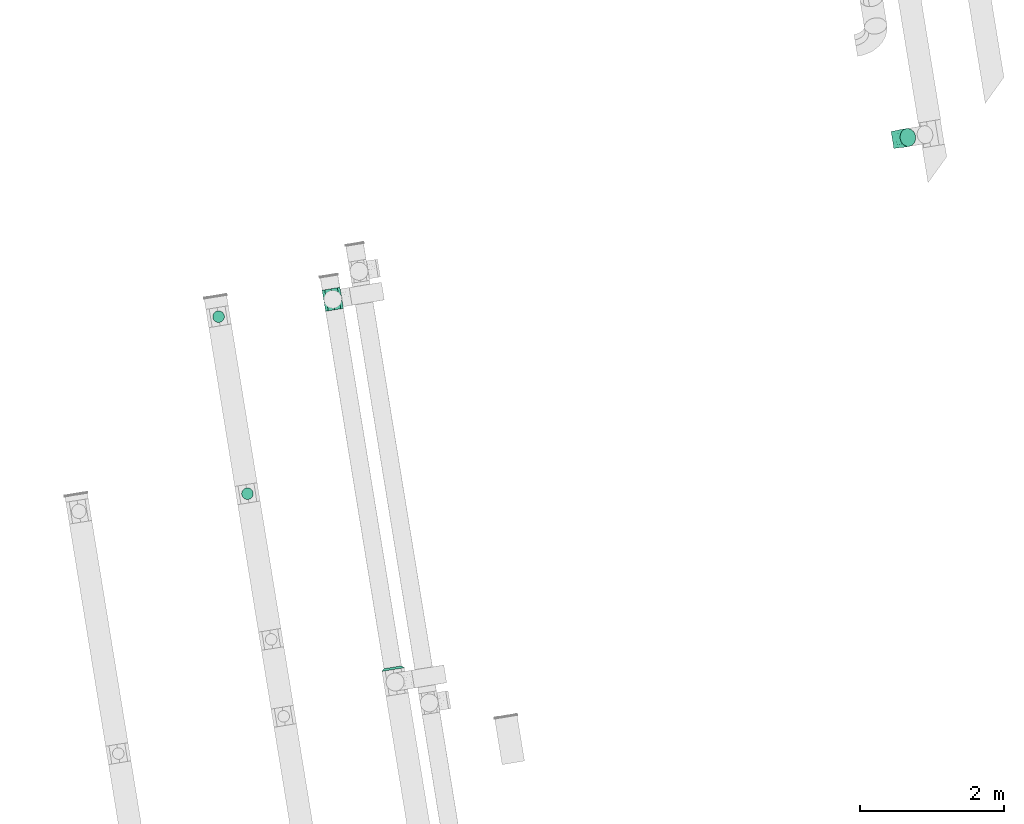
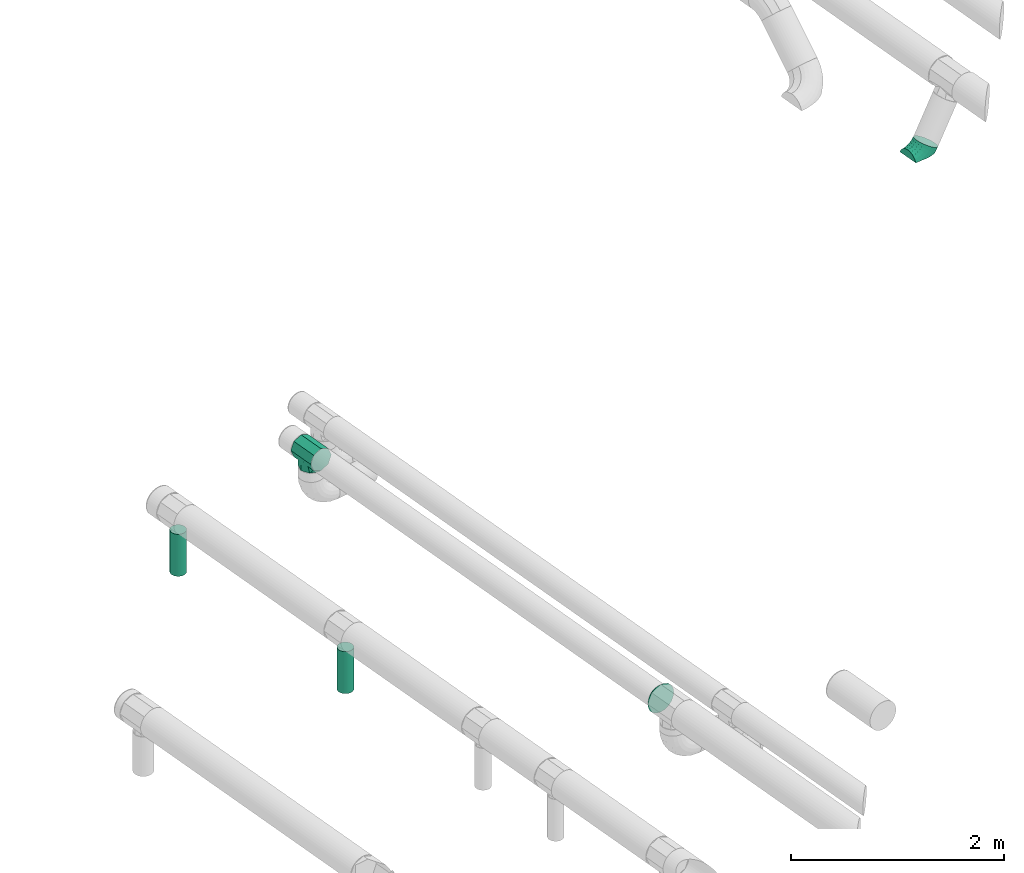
# One storey, part 14 of 15: 3 flow fittings, 2 flow segments.
"""IFC2X3 building model written with IfcOpenShell, lengths in millimetres."""

from ifc_helpers import new_model, entity, si_unit, converted_unit, derived_unit, direction, frame, origin, origin_with_axes, place, context, subcontext, project, spatial, faceted_brep, source, transform, mapped, material, type_object, element, save


model = new_model("IFC2X3")

# Units and contexts
model_context = context("Model", 3, precision=0.01, world=origin(), true_north=direction((6.12323399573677e-17, 1.0)))
plan_context = context("Plan", 3, precision=1e-05, world=origin_with_axes())
body_context = subcontext(model_context, "Body", "Model", "MODEL_VIEW")
ifc_project = project(units=[converted_unit("PLANEANGLEUNIT", "DEGREE", entity("IfcPositiveLengthMeasure", 0.0174532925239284), si_unit("PLANEANGLEUNIT", "RADIAN"), dimensions=[0, 0, 0, 0, 0, 0, 0]), si_unit("AREAUNIT", "SQUARE_METRE"), si_unit("LENGTHUNIT", "METRE", prefix="MILLI"), si_unit("MASSUNIT", "GRAM", prefix="KILO"), si_unit("POWERUNIT", "WATT"), si_unit("PRESSUREUNIT", "PASCAL", prefix="KILO"), si_unit("FORCEUNIT", "NEWTON", prefix="KILO"), si_unit("ELECTRICVOLTAGEUNIT", "VOLT"), si_unit("ELECTRICCURRENTUNIT", "AMPERE"), si_unit("THERMODYNAMICTEMPERATUREUNIT", "DEGREE_CELSIUS"), si_unit("TIMEUNIT", "SECOND"), si_unit("VOLUMEUNIT", "CUBIC_METRE"), derived_unit("LINEARVELOCITYUNIT", [(si_unit("LENGTHUNIT", "METRE"), 1), (si_unit("TIMEUNIT", "SECOND"), -1)]), derived_unit("VOLUMETRICFLOWRATEUNIT", [(si_unit("VOLUMEUNIT", "CUBIC_METRE"), 1), (si_unit("TIMEUNIT", "SECOND"), -1)]), derived_unit("THERMALTRANSMITTANCEUNIT", [(si_unit("POWERUNIT", "WATT"), 1), (si_unit("THERMODYNAMICTEMPERATUREUNIT", "KELVIN"), -1), (si_unit("AREAUNIT", "SQUARE_METRE"), -1)]), derived_unit("SOUNDPRESSUREUNIT", [(si_unit("PRESSUREUNIT", "PASCAL"), 1)])], contexts=[model_context, plan_context])

# Site, building, storey
site_placement = place(None, frame((5.09380697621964e-08, 5.80416781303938e-08, 0.0), z_axis=(0.0, 0.0, 1.0), x_axis=(-0.160806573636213, 0.986985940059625, 0.0)))
site = spatial("IfcSite", under=ifc_project, at=site_placement, Name="Default", CompositionType="ELEMENT")
building_placement = place(site_placement, frame((0.0, 0.0, 0.0), z_axis=(0.0, 0.0, 1.0), x_axis=(1.0, -2.77555756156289e-17, 0.0)))
building = spatial("IfcBuilding", under=site, at=building_placement, Name="Bygning (endres i Project Information)", CompositionType="ELEMENT")
storey_placement = place(building_placement, frame((0.0, 0.0, 51360.0000000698), z_axis=(0.0, 0.0, 1.0), x_axis=(1.0, -2.77555756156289e-17, 0.0)))
storey = spatial("IfcBuildingStorey", under=building, at=storey_placement, Name="H01-Nivå D+0,36", CompositionType="ELEMENT", Elevation=51360.0000000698)

# Flow fittings
ifc_material_1 = material(Name="Material_Duct")
duct_fitting_type_1 = type_object("IfcDuctFittingType", Name="magicirc_reduction_NOR:magicirc_reduction_NOR", PredefinedType="NOTDEFINED", material=ifc_material_1)
shared_shape_1 = source(origin(), body_context, "Body", "Brep", [
    faceted_brep([(32.5000000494, 38.6271243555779, 118.882064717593), (32.5000000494, 0.0, 125.000000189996), (32.5000000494, -38.6271243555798, 118.882064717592), (32.5000000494, -73.4731566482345, 101.127124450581), (32.5000000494, -101.127124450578, 73.4731566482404), (32.5000000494, -118.882064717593, 38.6271243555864), (32.5000000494, -125.000000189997, 0.0), (32.5000000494, -118.882064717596, -38.6271243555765), (32.5000000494, -101.127124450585, -73.473156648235), (32.5000000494, -73.4731566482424, -101.127124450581), (32.5000000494, -38.6271243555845, -118.882064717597), (32.5000000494, 0.0, -125.000000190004), (32.5000000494, 38.6271243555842, -118.882064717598), (32.5000000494, 73.4731566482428, -101.127124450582), (32.5000000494, 101.127124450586, -73.4731566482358), (32.5000000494, 118.882064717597, -38.6271243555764), (32.5000000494, 125.000000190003, 0.0), (32.5000000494, 118.882064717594, 38.6271243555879), (32.5000000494, 101.127124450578, 73.4731566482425), (32.5000000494, 73.4731566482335, 101.127124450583), (0.0, 0.0, 157.500000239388), (0.0, 40.7639996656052, 152.13331787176), (0.0, 78.7500001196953, 136.399001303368), (0.0, 111.369318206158, 111.369318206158), (0.0, 136.399001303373, 78.7500001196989), (0.0, 152.133317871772, 40.763999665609), (0.0, 157.5000002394, 0.0), (0.0, 152.133317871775, -40.7639996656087), (0.0, 136.399001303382, -78.7500001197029), (0.0, 111.36931820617, -111.369318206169), (0.0, 78.7500001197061, -136.399001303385), (0.0, 40.7639996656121, -152.133317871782), (0.0, 0.0, -157.500000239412), (0.0, -40.7639996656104, -152.133317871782), (0.0, -78.7500001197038, -136.399001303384), (0.0, -111.369318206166, -111.369318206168), (0.0, -136.399001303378, -78.7500001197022), (0.0, -152.13331787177, -40.763999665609), (0.0, -157.5000002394, 0.0), (0.0, -152.133317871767, 40.7639996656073), (0.0, -136.39900130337, 78.7500001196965), (0.0, -111.369318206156, 111.369318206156), (0.0, -78.7500001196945, 136.399001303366), (0.0, -40.7639996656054, 152.133317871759)], [[[0, 1, 2, 3, 4, 5, 6, 7, 8, 9, 10, 11, 12, 13, 14, 15, 16, 17, 18, 19]], [[20, 21, 22, 23, 24, 25, 26, 27, 28, 29, 30, 31, 32, 33, 34, 35, 36, 37, 38, 39, 40, 41, 42, 43]], [[8, 7, 36]], [[7, 6, 37]], [[9, 34, 10]], [[35, 9, 8]], [[10, 33, 11]], [[38, 37, 6]], [[36, 7, 37]], [[9, 35, 34]], [[10, 34, 33]], [[35, 8, 36]], [[33, 32, 11]], [[31, 11, 32]], [[12, 11, 31]], [[12, 30, 13]], [[15, 14, 28]], [[14, 13, 29]], [[16, 15, 27]], [[31, 30, 12]], [[30, 29, 13]], [[14, 29, 28]], [[28, 27, 15]], [[27, 26, 16]], [[18, 17, 24]], [[17, 16, 25]], [[19, 22, 0]], [[23, 19, 18]], [[0, 21, 1]], [[26, 25, 16]], [[24, 17, 25]], [[19, 23, 22]], [[0, 22, 21]], [[23, 18, 24]], [[21, 20, 1]], [[43, 1, 20]], [[2, 1, 43]], [[2, 42, 3]], [[5, 4, 40]], [[4, 3, 41]], [[6, 5, 39]], [[43, 42, 2]], [[42, 41, 3]], [[4, 41, 40]], [[40, 39, 5]], [[39, 38, 6]]]),
])
flow_fitting_1_placement = place(storey_placement, frame((1000268.18735498, -347124.100724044, 3804.29489743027), z_axis=(0.0, 0.0, 1.0), x_axis=(1.0, -2.77555756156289e-17, 0.0)))
element("IfcFlowFitting", 1, at=flow_fitting_1_placement, inside=storey, type_object=duct_fitting_type_1, material=ifc_material_1, Name="magicirc_reduction_NOR:magicirc_reduction_NOR", ObjectType="magicirc_reduction_NOR:magicirc_reduction_NOR", context=body_context, shape_type="MappedRepresentation", body=[
    mapped(shared_shape_1, transform((0.0, 0.0, 0.0), scale=1.0)),
])
ifc_material_2 = material(Name="DF_Material1")
duct_fitting_type_2 = type_object("IfcDuctFittingType", Name="Lindab TCPU:TCPU", PredefinedType="NOTDEFINED", material=ifc_material_2)
shared_shape_2 = source(origin(), body_context, "Body", "Brep", [
    faceted_brep([(148.0, -106.694173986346, 44.1941738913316), (148.0, -88.3883477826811, 88.388347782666), (110.210392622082, -110.210392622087, 58.9802458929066), (125.000000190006, -125.000000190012, 0.0), (148.0, -125.000000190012, 0.0), (-148.0, -125.000000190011, 0.0), (-125.000000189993, -125.000000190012, 0.0), (-148.0, -106.694173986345, 44.1941738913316), (75.8331549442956, -75.8331549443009, 99.3696767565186), (148.0, 0.0, 125.000000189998), (97.5961174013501, 0.0, 125.000000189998), (33.5365138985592, -33.5365138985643, 120.417200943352), (48.7980587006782, 0.0, 125.000000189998), (0.0, 0.0, 125.000000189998), (85.4880923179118, -85.488092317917, -91.1964150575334), (44.491984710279, -44.4919847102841, -116.813797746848), (97.5961133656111, 0.0, -125.000000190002), (148.0, -88.3883477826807, -88.3883477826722), (148.0, 0.0, -125.000000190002), (0.0, 0.0, -125.000000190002), (148.0, -106.694173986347, -44.1941738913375), (-148.0, -106.694173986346, -44.1941738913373), (116.363856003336, -116.363856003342, -45.6558108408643), (125.000000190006, -150.0, 0.0), (106.694173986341, -150.0, 44.1941738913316), (88.3883477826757, -150.0, 88.388347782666), (0.0, -150.0, 125.000000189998), (-88.3883477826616, -150.0, 88.3883477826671), (-106.694173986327, -150.0, 44.1941738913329), (-125.000000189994, -150.0, 0.0), (-106.694173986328, -150.0, -44.1941738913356), (-88.3883477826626, -150.0, -88.3883477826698), (0.0, -150.0, -125.000000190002), (88.3883477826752, -150.0, -88.3883477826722), (106.694173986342, -150.0, -44.1941738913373), (-44.4919847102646, -44.4919847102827, 116.813797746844), (0.0, -97.5961025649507, 125.000000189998), (0.0, -48.7980632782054, 125.000000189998), (-85.4880923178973, -85.488092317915, 91.1964150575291), (-116.363856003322, -116.36385600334, 45.6558108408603), (-110.210392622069, -110.210392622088, -58.9802458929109), (-33.5365138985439, -33.5365138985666, -120.417200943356), (0.0, -48.7980613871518, -125.000000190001), (0.0, -97.5961227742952, -125.000000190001), (-75.8331549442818, -75.8331549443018, -99.3696767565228), (-148.0, -88.3883477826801, 88.388347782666), (-148.0, 0.0, 125.000000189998), (-148.0, 88.3883477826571, 88.3883477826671), (-148.0, 125.000000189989, 0.0), (-148.0, 88.3883477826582, -88.3883477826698), (-148.0, 0.0, -125.000000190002), (-148.0, -88.3883477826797, -88.3883477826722), (148.0, 88.3883477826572, -88.3883477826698), (148.0, 125.000000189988, 0.0), (148.0, 88.3883477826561, 88.3883477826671), (-97.5961254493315, 0.0, 125.000000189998), (-48.7980562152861, 0.0, -125.000000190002), (-97.5961175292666, 0.0, -125.000000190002)], [[[0, 1, 2]], [[3, 0, 2]], [[3, 4, 0]], [[5, 6, 7]], [[1, 8, 2]], [[9, 10, 8]], [[9, 8, 1]], [[11, 10, 12, 13]], [[8, 10, 11]], [[14, 15, 16]], [[16, 17, 14]], [[18, 17, 16]], [[15, 19, 16]], [[4, 3, 20]], [[6, 5, 21]], [[22, 17, 20]], [[22, 20, 3]], [[17, 22, 14]], [[23, 24, 25, 26, 27, 28, 29, 30, 31, 32, 33, 34]], [[35, 36, 37, 13]], [[38, 36, 35]], [[36, 27, 26]], [[36, 38, 27]], [[6, 29, 28]], [[6, 28, 39]], [[28, 27, 39]], [[39, 27, 38]], [[40, 30, 6]], [[40, 31, 30]], [[41, 19, 42, 43]], [[29, 6, 30]], [[40, 44, 31]], [[43, 32, 44]], [[44, 32, 31]], [[44, 41, 43]], [[15, 43, 42, 19]], [[14, 43, 15]], [[43, 33, 32]], [[43, 14, 33]], [[3, 23, 34]], [[3, 34, 22]], [[34, 33, 22]], [[22, 33, 14]], [[2, 24, 3]], [[2, 25, 24]], [[23, 3, 24]], [[2, 8, 25]], [[36, 26, 8]], [[11, 13, 37, 36]], [[8, 26, 25]], [[8, 11, 36]], [[5, 7, 45, 46, 47, 48, 49, 50, 51, 21]], [[18, 52, 53, 54, 9, 1, 0, 4, 20, 17]], [[47, 46, 55, 13, 12, 10, 9, 54]], [[54, 53, 48, 47]], [[53, 52, 49, 48]], [[52, 18, 16, 19, 56, 57, 50, 49]], [[19, 41, 57, 56]], [[44, 57, 41]], [[50, 44, 51]], [[50, 57, 44]], [[6, 21, 40]], [[21, 51, 40]], [[40, 51, 44]], [[39, 7, 6]], [[39, 45, 7]], [[39, 38, 45]], [[46, 45, 55]], [[35, 13, 55]], [[55, 45, 38]], [[38, 35, 55]]]),
])
flow_fitting_2_placement = place(storey_placement, frame((1005465.68748115, -347124.100724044, 3804.2948974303), z_axis=(-2.77555756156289e-17, -1.0, 0.0), x_axis=(1.0, -2.77555756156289e-17, 0.0)))
element("IfcFlowFitting", 2, at=flow_fitting_2_placement, inside=storey, type_object=duct_fitting_type_2, material=ifc_material_2, Name="Lindab TCPU:TCPU", ObjectType="Lindab TCPU:TCPU", context=body_context, shape_type="MappedRepresentation", body=[
    mapped(shared_shape_2, transform((0.0, 0.0, 0.0), scale=1.0)),
])
ifc_material_3 = material(Name="3601.001 Tilluft")
duct_fitting_type_3 = type_object("IfcDuctFittingType", Name="magicirc_elbow_full_radius_NOR:magicirc_elbow_full_radius_NOR", PredefinedType="NOTDEFINED", material=ifc_material_3)
flow_fitting_3_placement = place(storey_placement, frame((1006397.35159129, -355276.553087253, 3101.48989533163), z_axis=(1.0, -6.93889391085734e-18, 1.20185167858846e-17), x_axis=(1.38777878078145e-17, 0.500000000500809, -0.866025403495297)))
element("IfcFlowFitting", 3, at=flow_fitting_3_placement, inside=storey, type_object=duct_fitting_type_3, Name="magicirc_elbow_full_radius_NOR:magicirc_elbow_full_radius_NOR", ObjectType="magicirc_elbow_full_radius_NOR:magicirc_elbow_full_radius_NOR", context=body_context, shape_type="Brep", body=[
    faceted_brep([(-111.086490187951, -115.387235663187, 38.6271243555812), (-114.84686903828, -121.900402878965, 0.0), (-144.337567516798, -125.00000019, 0.0), (-144.337567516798, -118.882064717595, 38.6271243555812), (16.3412723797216, 105.324123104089, -119.648935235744), (38.8180549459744, 144.255052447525, -118.900598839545), (38.7167127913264, 144.313562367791, -118.882064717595), (12.7430915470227, 108.563939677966, -118.882064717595), (-13.1525570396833, 131.880486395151, -101.127124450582), (8.53916360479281, 161.73657851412, -101.127124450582), (-33.7034601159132, 150.384602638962, -73.4731566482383), (-15.4098750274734, 175.563562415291, -73.4731566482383), (-46.8979521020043, 162.264976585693, -38.6271243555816), (-30.7861043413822, 184.441032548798, -38.6271243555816), (-51.4444641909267, 166.358674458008, 0.0), (-36.0843918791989, 187.500000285, 0.0), (-46.8979521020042, 162.264976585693, 38.6271243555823), (-30.786104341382, 184.441032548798, 38.6271243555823), (-33.7034601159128, 150.384602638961, 73.4731566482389), (-15.409875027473, 175.563562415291, 73.4731566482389), (-13.1525570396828, 131.880486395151, 101.127124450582), (8.53916360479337, 161.736578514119, 101.127124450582), (12.7430915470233, 108.563939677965, 118.882064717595), (38.716712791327, 144.313562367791, 118.882064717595), (38.8180549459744, 144.255052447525, 118.900598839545), (16.3412723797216, 105.324123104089, 119.648935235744), (-26.6567969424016, 30.8492825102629, 125.00000019), (-38.0101468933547, 11.1847035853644, 123.191901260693), (-42.6534065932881, 21.6136356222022, 125.00000019), (-8.26262923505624, 62.7089154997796, 122.070602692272), (-58.364473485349, 56.9012696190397, 118.882064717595), (-20.0957082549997, 78.9957515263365, 118.882064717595), (-72.5376316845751, 88.7347041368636, 101.127124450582), (-40.5776921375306, 107.186783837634, 101.127124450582), (-83.7855137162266, 113.997860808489, 73.4731566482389), (-56.8322865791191, 129.559313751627, 73.4731566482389), (-91.0070985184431, 130.217805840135, 38.6271243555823), (-67.2683786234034, 143.923362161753, 38.6271243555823), (-93.4954870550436, 135.806818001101, 0.0), (-70.8644108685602, 148.872875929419, 0.0), (-91.0070985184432, 130.217805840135, -38.6271243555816), (-67.2683786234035, 143.923362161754, -38.6271243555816), (-83.7855137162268, 113.99786080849, -73.4731566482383), (-56.8322865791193, 129.559313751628, -73.4731566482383), (-72.5376316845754, 88.7347041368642, -101.127124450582), (-40.577692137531, 107.186783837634, -101.127124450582), (-58.3644734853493, 56.9012696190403, -118.882064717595), (-20.0957082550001, 78.9957515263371, -118.882064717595), (-26.6567969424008, 30.8492825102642, -125.00000019), (-8.26262923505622, 62.7089154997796, -122.070602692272), (-42.6534065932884, 21.6136356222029, -125.00000019), (-38.0101468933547, 11.1847035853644, -123.191901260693), (-111.086490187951, -115.387235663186, -38.627124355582), (-100.173445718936, -96.4852882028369, -73.4731566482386), (-144.337567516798, -101.127124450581, -73.4731566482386), (-144.337567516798, -118.882064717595, -38.627124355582), (-83.175980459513, -67.044814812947, -101.127124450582), (-144.337567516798, -73.4731566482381, -101.127124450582), (-78.6236076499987, -59.1598738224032, -104.900908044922), (-84.3286139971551, -32.3199291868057, -118.882064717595), (-144.337567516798, -38.6271243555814, -118.882064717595), (-144.337567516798, 0.0, -125.00000019), (-92.359644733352, 5.46309982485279, -125.00000019), (-144.337567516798, 38.6271243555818, -118.882064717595), (-100.390675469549, 43.2461288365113, -118.882064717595), (-144.337567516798, 73.4731566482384, -101.127124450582), (-107.635572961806, 77.3306917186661, -101.127124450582), (-144.337567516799, 101.127124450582, -73.4731566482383), (-113.385156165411, 104.380353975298, -73.4731566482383), (-144.337567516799, 118.882064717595, -38.6271243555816), (-117.076615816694, 121.747306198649, -38.6271243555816), (-144.337567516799, 125.00000019, 0.0), (-118.348606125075, 127.731550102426, 0.0), (-144.337567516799, 118.882064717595, 38.6271243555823), (-117.076615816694, 121.747306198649, 38.6271243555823), (-144.337567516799, 101.127124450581, 73.4731566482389), (-113.385156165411, 104.380353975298, 73.4731566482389), (-144.337567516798, 73.4731566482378, 101.127124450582), (-107.635572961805, 77.3306917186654, 101.127124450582), (-144.337567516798, 38.6271243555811, 118.882064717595), (-100.390675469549, 43.2461288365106, 118.882064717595), (-144.337567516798, 0.0, 125.00000019), (-92.3596447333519, 5.46309982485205, 125.00000019), (-144.337567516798, -38.6271243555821, 118.882064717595), (-84.328613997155, -32.3199291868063, 118.882064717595), (-78.6236076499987, -59.1598738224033, 104.900908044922), (-83.1759804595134, -67.0448148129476, 101.127124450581), (-144.337567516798, -73.4731566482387, 101.127124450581), (-100.173445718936, -96.4852882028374, 73.473156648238), (-144.337567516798, -101.127124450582, 73.473156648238), (-58.2320368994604, -23.840637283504, -118.882064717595), (-58.2320368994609, -23.8406372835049, 118.882064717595)], [[[0, 1, 2, 3]], [[4, 5, 6, 7]], [[8, 7, 6, 9]], [[10, 8, 9, 11]], [[12, 10, 11, 13]], [[14, 12, 13, 15]], [[16, 14, 15, 17]], [[18, 16, 17, 19]], [[20, 18, 19, 21]], [[22, 20, 21, 23]], [[24, 25, 22, 23]], [[26, 27, 28]], [[29, 26, 28, 30, 31]], [[30, 32, 33, 31]], [[32, 34, 35, 33]], [[34, 36, 37, 35]], [[36, 38, 39, 37]], [[38, 40, 41, 39]], [[40, 42, 43, 41]], [[42, 44, 45, 43]], [[44, 46, 47, 45]], [[48, 49, 47, 46, 50]], [[51, 48, 50]], [[52, 53, 54, 55]], [[53, 56, 57, 54]], [[56, 58, 59, 60, 57]], [[61, 60, 59, 62]], [[63, 61, 62, 64]], [[65, 63, 64, 66]], [[67, 65, 66, 68]], [[69, 67, 68, 70]], [[71, 69, 70, 72]], [[73, 71, 72, 74]], [[75, 73, 74, 76]], [[77, 75, 76, 78]], [[79, 77, 78, 80]], [[81, 79, 80, 82]], [[83, 81, 82, 84]], [[85, 86, 87, 83, 84]], [[86, 88, 89, 87]], [[58, 90, 59]], [[90, 51, 50, 62, 59]], [[64, 62, 50, 46]], [[66, 64, 46, 44]], [[68, 66, 44, 42]], [[70, 68, 42, 40]], [[72, 70, 40, 38]], [[74, 72, 38, 36]], [[76, 74, 36, 34]], [[78, 76, 34, 32]], [[80, 78, 32, 30]], [[82, 80, 30, 28]], [[27, 91, 84, 82, 28]], [[91, 85, 84]], [[25, 29, 31, 22]], [[31, 33, 20, 22]], [[33, 35, 18, 20]], [[35, 37, 16, 18]], [[37, 39, 14, 16]], [[39, 41, 12, 14]], [[41, 43, 10, 12]], [[43, 45, 8, 10]], [[45, 47, 7, 8]], [[49, 4, 7, 47]], [[1, 52, 55, 2]], [[88, 0, 3, 89]], [[55, 54, 57, 60, 61, 63, 65, 67, 69, 71, 73, 75, 77, 79, 81, 83, 87, 89, 3, 2]], [[5, 24, 23, 21, 19, 17, 15, 13, 11, 9, 6]], [[88, 86, 85, 91, 27, 26, 29, 25, 24, 5, 4, 49, 48, 51, 90, 58, 56, 53, 52, 1, 0]]], orient=[[False], [False], [False], [False], [False], [False], [False], [False], [False], [False], [False], [False], [False], [False], [False], [False], [False], [False], [False], [False], [False], [False], [False], [False], [False], [False], [False], [False], [False], [False], [False], [False], [False], [False], [False], [False], [False], [False], [False], [False], [False], [False], [False], [False], [False], [False], [False], [False], [False], [False], [False], [False], [False], [False], [False], [False], [False], [False], [False], [False], [False], [False], [False], [False], [False], [False], [False], [False], [False]]),
])

# Flow segments
duct_segment_type = type_object("IfcDuctSegmentType", Name="Round Duct:Sirkulær kanal", PredefinedType="NOTDEFINED", material=ifc_material_3)
flow_segment_1_placement = place(storey_placement, frame((0.0, 0.0, 0.0), z_axis=(0.0, 0.0, 1.0), x_axis=(1.0, -2.77555756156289e-17, 0.0)))
element("IfcFlowSegment", 4, at=flow_segment_1_placement, inside=storey, type_object=duct_segment_type, Name="Round Duct:Sirkulær kanal", ObjectType="Round Duct:Sirkulær kanal", context=body_context, shape_type="Brep", body=[
    faceted_brep([(1002997.55890709, -345444.100723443, 3139.99999993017), (1003011.45076132, -345445.316103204, 3139.99999993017), (1003011.45076132, -345445.316103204, 3622.29489743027), (1002997.55890709, -345444.100723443, 3622.29489743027), (1002983.66705285, -345445.316103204, 3139.99999993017), (1002983.66705285, -345445.316103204, 3622.29489743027), (1002970.19729558, -345448.925313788, 3139.99999993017), (1002970.19729558, -345448.925313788, 3622.29489743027), (1002957.55890703, -345454.818691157, 3139.99999993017), (1002957.55890703, -345454.818691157, 3622.29489743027), (1002946.13589823, -345462.817168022, 3139.99999993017), (1002946.13589823, -345462.817168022, 3622.29489743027), (1002936.27535154, -345472.677714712, 3139.99999993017), (1002936.27535154, -345472.677714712, 3622.29489743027), (1002928.27687468, -345484.100723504, 3139.99999993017), (1002928.27687468, -345484.100723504, 3622.29489743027), (1002922.38349731, -345496.739112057, 3139.99999993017), (1002922.38349731, -345496.739112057, 3622.29489743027), (1002918.77428673, -345510.208869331, 3139.99999993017), (1002918.77428673, -345510.208869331, 3622.29489743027), (1002917.55890696, -345524.100723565, 3139.99999993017), (1002917.55890697, -345524.100723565, 3622.29489743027), (1002918.77428673, -345537.992577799, 3139.99999993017), (1002918.77428673, -345537.992577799, 3622.29489743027), (1002922.38349731, -345551.462335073, 3139.99999993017), (1002922.38349731, -345551.462335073, 3622.29489743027), (1002928.27687468, -345564.100723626, 3139.99999993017), (1002928.27687468, -345564.100723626, 3622.29489743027), (1002936.27535154, -345575.523732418, 3139.99999993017), (1002936.27535154, -345575.523732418, 3622.29489743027), (1002946.13589823, -345585.384279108, 3139.99999993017), (1002946.13589823, -345585.384279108, 3622.29489743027), (1002957.55890703, -345593.382755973, 3139.99999993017), (1002957.55890703, -345593.382755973, 3622.29489743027), (1002970.19729558, -345599.276133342, 3139.99999993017), (1002970.19729558, -345599.276133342, 3622.29489743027), (1002983.66705285, -345602.885343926, 3139.99999993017), (1002983.66705285, -345602.885343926, 3622.29489743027), (1002997.55890709, -345604.100723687, 3139.99999993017), (1002997.55890709, -345604.100723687, 3622.29489743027), (1003011.45076132, -345602.885343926, 3139.99999993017), (1003011.45076132, -345602.885343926, 3622.29489743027), (1003024.92051859, -345599.276133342, 3139.99999993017), (1003024.92051859, -345599.276133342, 3622.29489743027), (1003037.55890715, -345593.382755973, 3139.99999993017), (1003037.55890715, -345593.382755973, 3622.29489743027), (1003048.98191594, -345585.384279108, 3139.99999993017), (1003048.98191594, -345585.384279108, 3622.29489743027), (1003058.84246263, -345575.523732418, 3139.99999993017), (1003058.84246263, -345575.523732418, 3622.29489743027), (1003066.84093949, -345564.100723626, 3139.99999993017), (1003066.84093949, -345564.100723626, 3622.29489743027), (1003072.73431686, -345551.462335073, 3139.99999993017), (1003072.73431686, -345551.462335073, 3622.29489743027), (1003076.34352745, -345537.992577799, 3139.99999993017), (1003076.34352745, -345537.992577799, 3622.29489743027), (1003077.55890721, -345524.100723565, 3139.99999993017), (1003077.55890721, -345524.100723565, 3622.29489743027), (1003076.34352745, -345510.208869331, 3139.99999993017), (1003076.34352745, -345510.208869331, 3622.29489743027), (1003072.73431686, -345496.739112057, 3139.99999993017), (1003072.73431686, -345496.739112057, 3622.29489743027), (1003066.84093949, -345484.100723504, 3139.99999993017), (1003066.84093949, -345484.100723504, 3622.29489743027), (1003058.84246263, -345472.677714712, 3139.99999993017), (1003058.84246263, -345472.677714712, 3622.29489743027), (1003048.98191594, -345462.817168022, 3139.99999993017), (1003048.98191594, -345462.817168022, 3622.29489743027), (1003037.55890715, -345454.818691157, 3139.99999993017), (1003037.55890715, -345454.818691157, 3622.29489743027), (1003024.92051859, -345448.925313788, 3139.99999993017), (1003024.92051859, -345448.925313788, 3622.29489743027)], [[[0, 1, 2, 3]], [[4, 0, 3, 5]], [[6, 4, 5, 7]], [[8, 6, 7, 9]], [[10, 8, 9, 11]], [[12, 10, 11, 13]], [[14, 12, 13, 15]], [[16, 14, 15, 17]], [[18, 16, 17, 19]], [[20, 18, 19, 21]], [[22, 20, 21, 23]], [[24, 22, 23, 25]], [[26, 24, 25, 27]], [[28, 26, 27, 29]], [[30, 28, 29, 31]], [[32, 30, 31, 33]], [[34, 32, 33, 35]], [[36, 34, 35, 37]], [[38, 36, 37, 39]], [[40, 38, 39, 41]], [[42, 40, 41, 43]], [[44, 42, 43, 45]], [[46, 44, 45, 47]], [[48, 46, 47, 49]], [[50, 48, 49, 51]], [[52, 50, 51, 53]], [[54, 52, 53, 55]], [[56, 54, 55, 57]], [[58, 56, 57, 59]], [[60, 58, 59, 61]], [[62, 60, 61, 63]], [[64, 62, 63, 65]], [[66, 64, 65, 67]], [[68, 66, 67, 69]], [[70, 68, 69, 71]], [[1, 70, 71, 2]], [[3, 2, 71, 69, 67, 65, 63, 61, 59, 57, 55, 53, 51, 49, 47, 45, 43, 41, 39, 37, 35, 33, 31, 29, 27, 25, 23, 21, 19, 17, 15, 13, 11, 9, 7, 5]], [[4, 6, 8, 10, 12, 14, 16, 18, 20, 22, 24, 26, 28, 30, 32, 34, 36, 38, 40, 42, 44, 46, 48, 50, 52, 54, 56, 58, 60, 62, 64, 66, 68, 70, 1, 0]]], orient=[[False], [False], [False], [False], [False], [False], [False], [False], [False], [False], [False], [False], [False], [False], [False], [False], [False], [False], [False], [False], [False], [False], [False], [False], [False], [False], [False], [False], [False], [False], [False], [False], [False], [False], [False], [False], [False], [False]]),
])
flow_segment_2_placement = place(storey_placement, frame((0.0, 0.0, 0.0), z_axis=(0.0, 0.0, 1.0), x_axis=(1.0, -2.77555756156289e-17, 0.0)))
element("IfcFlowSegment", 5, at=flow_segment_2_placement, inside=storey, type_object=duct_segment_type, Name="Round Duct:Sirkulær kanal", ObjectType="Round Duct:Sirkulær kanal", context=body_context, shape_type="Brep", body=[
    faceted_brep([(1005482.55890709, -345444.100723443, 3139.99999993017), (1005496.45076132, -345445.316103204, 3139.99999993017), (1005496.45076132, -345445.316103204, 3622.29489743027), (1005482.55890709, -345444.100723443, 3622.29489743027), (1005468.66705285, -345445.316103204, 3139.99999993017), (1005468.66705285, -345445.316103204, 3622.29489743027), (1005455.19729558, -345448.925313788, 3139.99999993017), (1005455.19729558, -345448.925313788, 3622.29489743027), (1005442.55890703, -345454.818691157, 3139.99999993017), (1005442.55890703, -345454.818691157, 3622.29489743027), (1005431.13589823, -345462.817168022, 3139.99999993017), (1005431.13589823, -345462.817168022, 3622.29489743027), (1005421.27535154, -345472.677714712, 3139.99999993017), (1005421.27535154, -345472.677714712, 3622.29489743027), (1005413.27687468, -345484.100723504, 3139.99999993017), (1005413.27687468, -345484.100723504, 3622.29489743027), (1005407.38349731, -345496.739112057, 3139.99999993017), (1005407.38349731, -345496.739112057, 3622.29489743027), (1005403.77428673, -345510.208869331, 3139.99999993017), (1005403.77428673, -345510.208869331, 3622.29489743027), (1005402.55890697, -345524.100723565, 3139.99999993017), (1005402.55890697, -345524.100723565, 3622.29489743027), (1005403.77428673, -345537.992577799, 3139.99999993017), (1005403.77428673, -345537.992577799, 3622.29489743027), (1005407.38349731, -345551.462335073, 3139.99999993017), (1005407.38349731, -345551.462335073, 3622.29489743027), (1005413.27687468, -345564.100723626, 3139.99999993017), (1005413.27687468, -345564.100723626, 3622.29489743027), (1005421.27535154, -345575.523732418, 3139.99999993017), (1005421.27535154, -345575.523732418, 3622.29489743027), (1005431.13589823, -345585.384279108, 3139.99999993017), (1005431.13589823, -345585.384279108, 3622.29489743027), (1005442.55890703, -345593.382755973, 3139.99999993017), (1005442.55890703, -345593.382755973, 3622.29489743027), (1005455.19729558, -345599.276133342, 3139.99999993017), (1005455.19729558, -345599.276133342, 3622.29489743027), (1005468.66705285, -345602.885343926, 3139.99999993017), (1005468.66705285, -345602.885343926, 3622.29489743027), (1005482.55890709, -345604.100723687, 3139.99999993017), (1005482.55890709, -345604.100723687, 3622.29489743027), (1005496.45076132, -345602.885343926, 3139.99999993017), (1005496.45076132, -345602.885343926, 3622.29489743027), (1005509.92051859, -345599.276133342, 3139.99999993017), (1005509.92051859, -345599.276133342, 3622.29489743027), (1005522.55890715, -345593.382755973, 3139.99999993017), (1005522.55890715, -345593.382755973, 3622.29489743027), (1005533.98191594, -345585.384279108, 3139.99999993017), (1005533.98191594, -345585.384279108, 3622.29489743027), (1005543.84246263, -345575.523732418, 3139.99999993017), (1005543.84246263, -345575.523732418, 3622.29489743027), (1005551.8409395, -345564.100723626, 3139.99999993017), (1005551.8409395, -345564.100723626, 3622.29489743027), (1005557.73431686, -345551.462335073, 3139.99999993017), (1005557.73431686, -345551.462335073, 3622.29489743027), (1005561.34352745, -345537.992577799, 3139.99999993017), (1005561.34352745, -345537.992577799, 3622.29489743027), (1005562.55890721, -345524.100723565, 3139.99999993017), (1005562.55890721, -345524.100723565, 3622.29489743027), (1005561.34352745, -345510.208869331, 3139.99999993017), (1005561.34352745, -345510.208869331, 3622.29489743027), (1005557.73431686, -345496.739112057, 3139.99999993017), (1005557.73431686, -345496.739112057, 3622.29489743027), (1005551.8409395, -345484.100723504, 3139.99999993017), (1005551.8409395, -345484.100723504, 3622.29489743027), (1005543.84246263, -345472.677714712, 3139.99999993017), (1005543.84246263, -345472.677714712, 3622.29489743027), (1005533.98191594, -345462.817168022, 3139.99999993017), (1005533.98191594, -345462.817168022, 3622.29489743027), (1005522.55890715, -345454.818691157, 3139.99999993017), (1005522.55890715, -345454.818691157, 3622.29489743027), (1005509.92051859, -345448.925313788, 3139.99999993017), (1005509.92051859, -345448.925313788, 3622.29489743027)], [[[0, 1, 2, 3]], [[4, 0, 3, 5]], [[6, 4, 5, 7]], [[8, 6, 7, 9]], [[10, 8, 9, 11]], [[12, 10, 11, 13]], [[14, 12, 13, 15]], [[16, 14, 15, 17]], [[18, 16, 17, 19]], [[20, 18, 19, 21]], [[22, 20, 21, 23]], [[24, 22, 23, 25]], [[26, 24, 25, 27]], [[28, 26, 27, 29]], [[30, 28, 29, 31]], [[32, 30, 31, 33]], [[34, 32, 33, 35]], [[36, 34, 35, 37]], [[38, 36, 37, 39]], [[40, 38, 39, 41]], [[42, 40, 41, 43]], [[44, 42, 43, 45]], [[46, 44, 45, 47]], [[48, 46, 47, 49]], [[50, 48, 49, 51]], [[52, 50, 51, 53]], [[54, 52, 53, 55]], [[56, 54, 55, 57]], [[58, 56, 57, 59]], [[60, 58, 59, 61]], [[62, 60, 61, 63]], [[64, 62, 63, 65]], [[66, 64, 65, 67]], [[68, 66, 67, 69]], [[70, 68, 69, 71]], [[1, 70, 71, 2]], [[3, 2, 71, 69, 67, 65, 63, 61, 59, 57, 55, 53, 51, 49, 47, 45, 43, 41, 39, 37, 35, 33, 31, 29, 27, 25, 23, 21, 19, 17, 15, 13, 11, 9, 7, 5]], [[4, 6, 8, 10, 12, 14, 16, 18, 20, 22, 24, 26, 28, 30, 32, 34, 36, 38, 40, 42, 44, 46, 48, 50, 52, 54, 56, 58, 60, 62, 64, 66, 68, 70, 1, 0]]], orient=[[False], [False], [False], [False], [False], [False], [False], [False], [False], [False], [False], [False], [False], [False], [False], [False], [False], [False], [False], [False], [False], [False], [False], [False], [False], [False], [False], [False], [False], [False], [False], [False], [False], [False], [False], [False], [False], [False]]),
])

save(model, "model.ifc")
